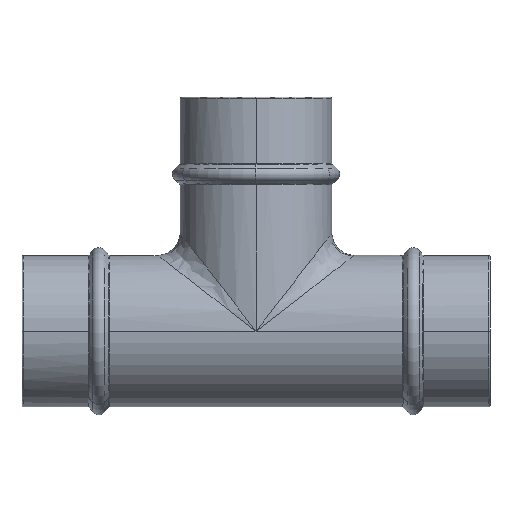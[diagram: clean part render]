
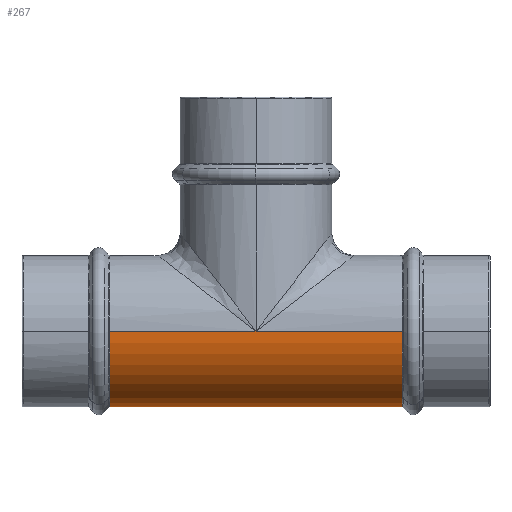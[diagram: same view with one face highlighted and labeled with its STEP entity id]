
A CAD part, left-side view. The second image highlights one B-rep face of the part: STEP entity #267.
In plain terms, the highlighted cylindrical face has radius 34 mm (diameter 68 mm), a partial arc.
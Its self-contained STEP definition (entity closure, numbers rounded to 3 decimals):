
#116=CYLINDRICAL_SURFACE('',#1155,34.);
#165=LINE('',#2695,#199);
#166=LINE('',#2697,#200);
#173=LINE('',#2758,#207);
#174=LINE('',#2760,#208);
#199=VECTOR('',#1377,1.);
#200=VECTOR('',#1378,1.);
#207=VECTOR('',#1459,1.);
#208=VECTOR('',#1460,1.);
#267=ADVANCED_FACE('',(#357),#116,.T.);
#357=FACE_OUTER_BOUND('',#418,.T.);
#418=EDGE_LOOP('',(#636,#637,#638,#639,#640,#641,#642,#643));
#636=ORIENTED_EDGE('',*,*,#902,.F.);
#637=ORIENTED_EDGE('',*,*,#869,.T.);
#638=ORIENTED_EDGE('',*,*,#875,.F.);
#639=ORIENTED_EDGE('',*,*,#872,.F.);
#640=ORIENTED_EDGE('',*,*,#870,.F.);
#641=ORIENTED_EDGE('',*,*,#901,.T.);
#642=ORIENTED_EDGE('',*,*,#904,.T.);
#643=ORIENTED_EDGE('',*,*,#905,.T.);
#733=VERTEX_POINT('',#1653);
#734=VERTEX_POINT('',#1654);
#760=VERTEX_POINT('',#2696);
#761=VERTEX_POINT('',#2698);
#762=VERTEX_POINT('',#2702);
#778=VERTEX_POINT('',#2759);
#779=VERTEX_POINT('',#2761);
#780=VERTEX_POINT('',#2765);
#869=EDGE_CURVE('LINE',#734,#760,#165,.T.);
#870=EDGE_CURVE('LINE',#733,#761,#166,.T.);
#872=EDGE_CURVE('GENERATED CIRCLE',#761,#762,#985,.T.);
#875=EDGE_CURVE('GENERATED CIRCLE',#762,#760,#988,.T.);
#901=EDGE_CURVE('LINE',#733,#778,#173,.T.);
#902=EDGE_CURVE('LINE',#734,#779,#174,.T.);
#904=EDGE_CURVE('GENERATED CIRCLE',#778,#780,#1009,.T.);
#905=EDGE_CURVE('GENERATED CIRCLE',#780,#779,#1010,.T.);
#985=CIRCLE('',#1116,34.);
#988=CIRCLE('',#1120,34.);
#1009=CIRCLE('',#1153,34.);
#1010=CIRCLE('',#1154,34.);
#1116=AXIS2_PLACEMENT_3D('',#2701,#1383,#1384);
#1120=AXIS2_PLACEMENT_3D('',#2706,#1391,#1392);
#1153=AXIS2_PLACEMENT_3D('',#2764,#1465,#1466);
#1154=AXIS2_PLACEMENT_3D('',#2766,#1467,#1468);
#1155=AXIS2_PLACEMENT_3D('',#2767,#1469,#1470);
#1377=DIRECTION('',(0.,-1.,0.));
#1378=DIRECTION('',(0.,-1.,0.));
#1383=DIRECTION('',(0.,-1.,0.));
#1384=DIRECTION('',(1.,0.,0.));
#1391=DIRECTION('',(0.,-1.,0.));
#1392=DIRECTION('',(1.,0.,0.));
#1459=DIRECTION('',(0.,1.,0.));
#1460=DIRECTION('',(0.,1.,0.));
#1465=DIRECTION('',(0.,-1.,0.));
#1466=DIRECTION('',(1.,0.,0.));
#1467=DIRECTION('',(0.,-1.,0.));
#1468=DIRECTION('',(1.,0.,0.));
#1469=DIRECTION('',(0.,1.,0.));
#1470=DIRECTION('',(1.,0.,0.));
#1653=CARTESIAN_POINT('',(-34.,0.,0.));
#1654=CARTESIAN_POINT('',(34.,0.,0.));
#2695=CARTESIAN_POINT('',(34.,52.5,0.));
#2696=CARTESIAN_POINT('',(34.,-65.698,0.));
#2697=CARTESIAN_POINT('',(-34.,52.5,0.));
#2698=CARTESIAN_POINT('',(-34.,-65.698,0.));
#2701=CARTESIAN_POINT('',(0.,-65.698,0.));
#2702=CARTESIAN_POINT('',(-16.3,-65.698,-29.838));
#2706=CARTESIAN_POINT('',(0.,-65.698,0.));
#2758=CARTESIAN_POINT('',(-34.,52.5,0.));
#2759=CARTESIAN_POINT('',(-34.,65.698,0.));
#2760=CARTESIAN_POINT('',(34.,52.5,0.));
#2761=CARTESIAN_POINT('',(34.,65.698,0.));
#2764=CARTESIAN_POINT('',(0.,65.698,0.));
#2765=CARTESIAN_POINT('',(-16.3,65.698,-29.838));
#2766=CARTESIAN_POINT('',(0.,65.698,0.));
#2767=CARTESIAN_POINT('',(0.,52.5,0.));
